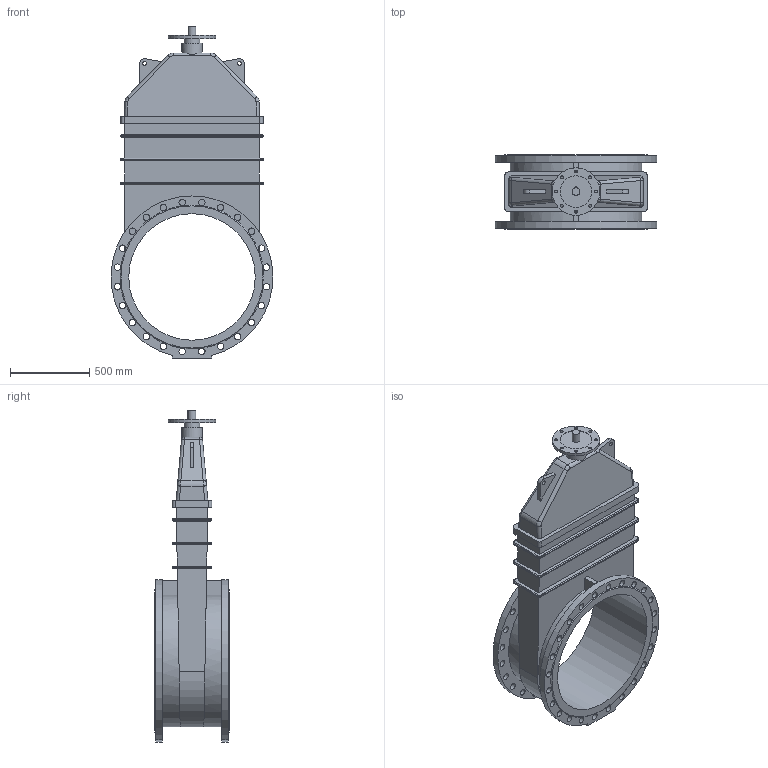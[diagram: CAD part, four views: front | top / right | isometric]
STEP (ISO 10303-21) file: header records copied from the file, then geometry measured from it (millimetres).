
FILE_DESCRIPTION(('STEP AP203'), '1');
FILE_NAME('Çàäâèæêà 47GVA DN800 PN10_PN16_F25 áåç èñïîëíèò. ìåõ.', '', ('UNSPECIFIED'), ('UNSPECIFIED'), 'ASCON STEP Converter 1.6', 'ASCON Math Kernel', '');
FILE_SCHEMA(('CONFIG_CONTROL_DESIGN'));
Length unit declared in the file: millimetre
Bounding box: 1024.26 x 470 x 2099.5 mm (x, y, z)
Volume: 210420318.6 mm3; surface area: 6604107.9 mm2
Topology: 1 solids, 1 shells, 262 faces, 751 edges, 463 vertices
Faces by surface type: cylinder 135, plane 93, bspline 32, cone 2
Full cylindrical faces by diameter (mm): 18 x8, 25 x2, 41 x48, 50 x1, 100 x1, 130 x1, 200 x1, 300 x1, 800 x1
Entity records: 13083 total; most frequent: CARTESIAN_POINT 4292, DIRECTION 1356, ORIENTED_EDGE 1324, EDGE_CURVE 662, AXIS2_PLACEMENT_3D 543, EDGE_LOOP 468, VERTEX_POINT 450, FACE_BOUND 379
